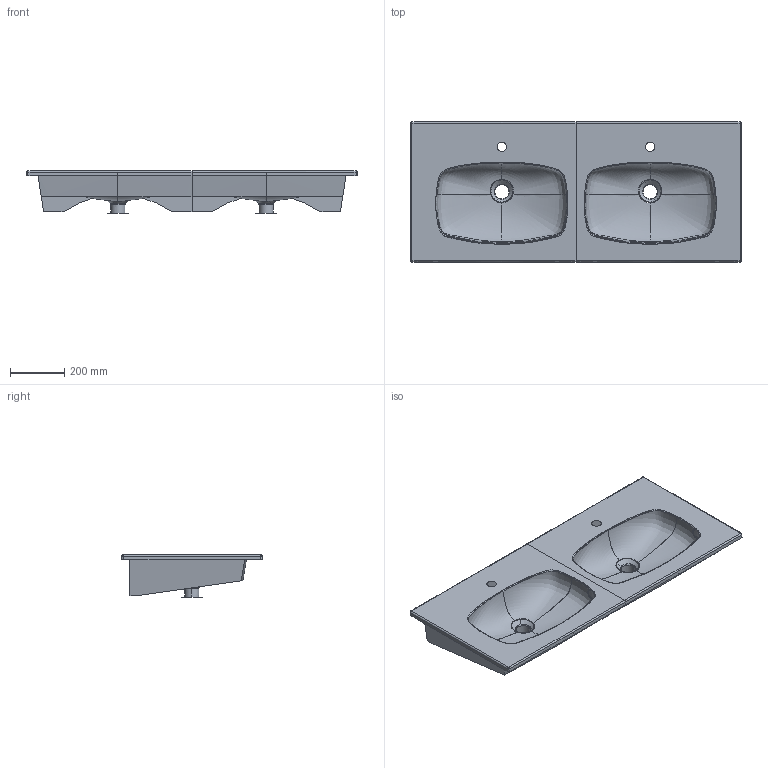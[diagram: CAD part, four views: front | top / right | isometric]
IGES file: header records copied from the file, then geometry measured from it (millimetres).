
Start section: START RECORD GO HERE.
Global section: file name: 3D Mabelle 121 dv.igs; native system: DASSAULT SYSTEMES CATIA V5 R19 - www.3ds.com; preprocessor: CATIA Version 5 Release 19 SP 5 ; author: Luca; organization: DESKTOP-V7SON24; date: 20190410.123017; units: millimetre
Bounding box: 1215 x 515.63 x 156.5 mm (x, y, z)
Surface area: 1143468.6 mm2 (no closed solid volume)
Topology: 0 solids, 0 shells, 114 faces, 548 edges, 544 vertices
Faces by surface type: bspline 66, revolution 34, plane 14
